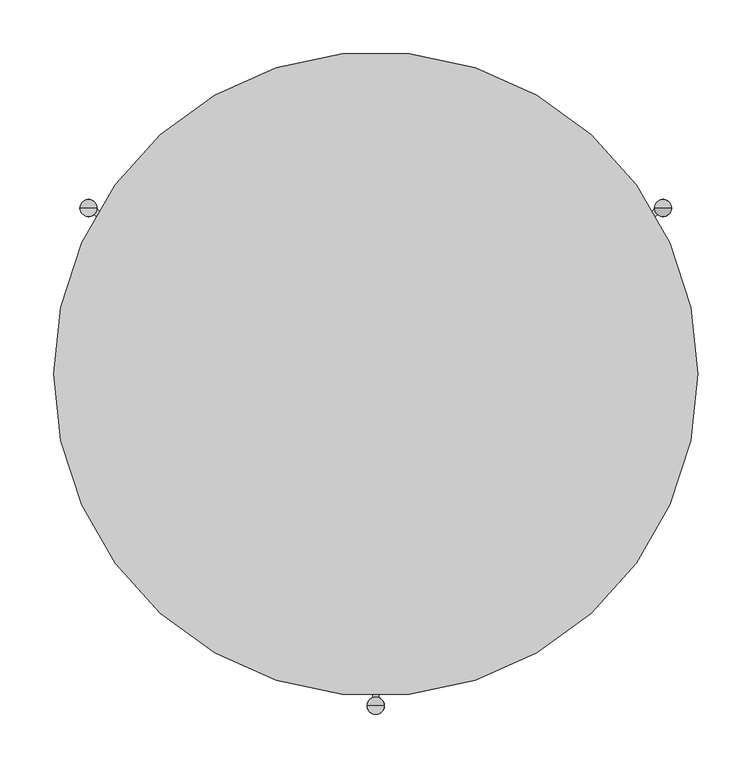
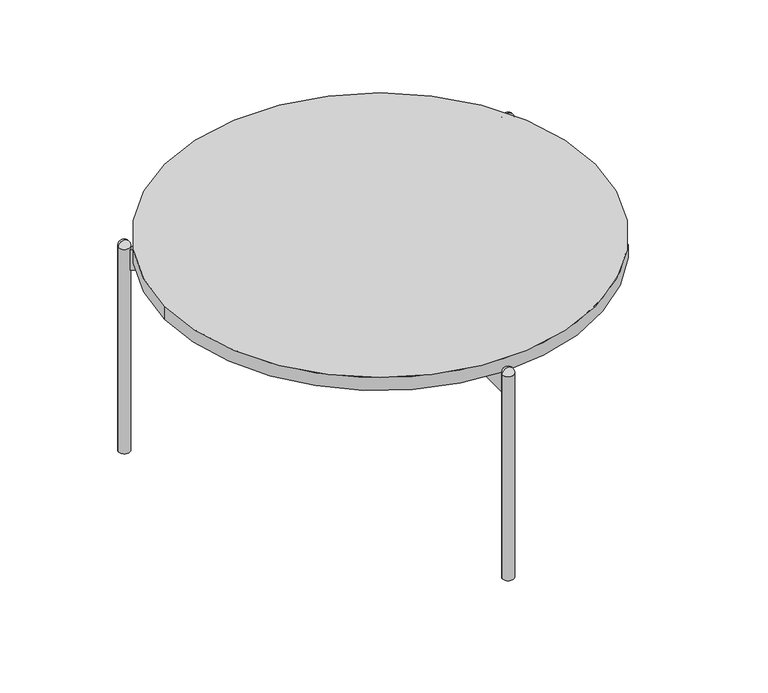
"""IFC4 building model written with IfcOpenShell, lengths in millimetres: furniture geometry, ROUND TABLE_H=31 : EI131B050060A_M."""

from ifc_helpers import new_model, si_unit, point, frame, frame_2d, origin, origin_with_axes, origin_2d, place, context, project, spatial, polyline, circle_curve, ellipse_curve, trimmed, segment, composite_curve, outline, extrude, source, transform, mapped, element, save
from ifc_brep_helpers import plane_surface, revolved_surface, advanced_brep


def furniture_c892bf0a(model_context):
    return source(origin(), model_context, "Body", "SolidModel", [
        extrude(outline(composite_curve([segment(trimmed(circle_curve(origin_2d(), 300.0), [point((-300.0, 0.0))], [point((300.0, 0.0))], False, "CARTESIAN"), True, "CONTINUOUS"), segment(trimmed(circle_curve(origin_2d(), 300.0), [point((300.0, 0.0))], [point((-300.0, 0.0))], False, "CARTESIAN"), True, "CONTINUOUS")], self_intersect=False)), frame((0.0, 0.0, 297.6939464), z_axis=(0.0, 0.0, 1.0), x_axis=(1.0, 0.0, 0.0)), (0.0, 0.0, 1.0), 19.0),
        extrude(outline(composite_curve([segment(polyline([(-19.7129166, 7.9278768), (-262.7443334, 148.2421307)]), True, "CONTINUOUS"), segment(trimmed(circle_curve(frame_2d((-267.6, 154.6)), 8.0), [point((-262.7443334, 148.2421307))], [point((-259.6895089, 153.4066303))], True, "CARTESIAN"), True, "CONTINUOUS"), segment(polyline([(-259.6895089, 153.4066303), (-16.7129166, 13.1240293), (-19.7129166, 7.9278768)]), True, "CONTINUOUS")], self_intersect=False)), frame((0.0, 0.0, 267.6939464), z_axis=(0.0, 0.0, 1.0), x_axis=(1.0, 0.0, 0.0)), (0.0, 0.0, 1.0), 30.0),
        extrude(outline(composite_curve([segment(polyline([(19.7314855, 7.9171561), (16.7314855, 13.1133085), (259.6925075, 153.38692)]), True, "CONTINUOUS"), segment(trimmed(circle_curve(frame_2d((267.6, 154.6)), 8.0), [point((259.6925075, 153.38692))], [point((262.7603454, 148.2299338))], True, "CARTESIAN"), True, "CONTINUOUS"), segment(polyline([(262.7603454, 148.2299338), (19.7314855, 7.9171561)]), True, "CONTINUOUS")], self_intersect=False)), frame((0.0, 0.0, 267.6939464), z_axis=(0.0, 0.0, 1.0), x_axis=(1.0, 0.0, 0.0)), (0.0, 0.0, 1.0), 30.0),
        extrude(outline(composite_curve([segment(polyline([(3.0, -21.0411853), (3.0, -301.5838015)]), True, "CONTINUOUS"), segment(trimmed(circle_curve(frame_2d((0.0, -309.0)), 8.0), [point((3.0, -301.5838015))], [point((-3.0, -301.5838015))], True, "CARTESIAN"), True, "CONTINUOUS"), segment(polyline([(-3.0, -301.5838015), (-3.0, -21.0411853), (3.0, -21.0411853)]), True, "CONTINUOUS")], self_intersect=False)), frame((0.0, 0.0, 267.6939464), z_axis=(0.0, 0.0, 1.0), x_axis=(1.0, 0.0, 0.0)), (0.0, 0.0, 1.0), 30.0),
        advanced_brep(
        [(267.6, 154.6, 309.1666667), (259.6, 154.6, 301.1666667), (275.6, 154.6, 301.1666667), (267.6, 154.6, 301.1666667)],
        [
            (0, 1, circle_curve(frame((267.6, 154.6, 301.1666667), z_axis=(0.0, -1.0, 0.0), x_axis=(1.0, 0.0, 0.0)), 8.0)),
            (1, 2, circle_curve(frame((267.6, 154.6, 301.1666667), z_axis=(0.0, 0.0, 1.0), x_axis=(-1.0, 0.0, 0.0)), 8.0)),
            (2, 0, circle_curve(frame((267.6, 154.6, 301.1666667), z_axis=(0.0, -1.0, 0.0), x_axis=(-1.0, 0.0, 0.0)), 8.0)),
            (2, 1, circle_curve(frame((267.6, 154.6, 301.1666667), z_axis=(0.0, 0.0, 1.0), x_axis=(-1.0, 0.0, 0.0)), 8.0)),
            (1, 3),
            (3, 2),
        ],
        [
            revolved_surface(trimmed(ellipse_curve(frame((267.6, 154.6, 301.1666667), z_axis=(0.0, 1.0, 0.0), x_axis=(1.0, 0.0, 0.0)), 8.0, 8.0), [point((259.6, 154.6, 301.1666667))], [point((267.6, 154.6, 309.1666667))], True, "CARTESIAN"), (267.6, 154.6, 2498.4), (0.0, 0.0, 1.0)),
            plane_surface(frame((267.6, 154.6, 301.1666667), z_axis=(0.0, 0.0, -1.0), x_axis=(-1.0, 0.0, 0.0))),
        ],
        [
            (0, [[1, 2, 3]]),
            (0, [[-3, 4, -1]]),
            (1, [[-2, 5, 6]]),
            (1, [[-4, -6, -5]]),
        ],
    ),
        advanced_brep(
        [(267.6, 154.6, 309.1666667), (259.6, 154.6, 301.1666667), (275.6, 154.6, 301.1666667), (267.6, 154.6, 301.1666667)],
        [
            (0, 1, circle_curve(frame((267.6, 154.6, 301.1666667), z_axis=(0.0, -1.0, 0.0), x_axis=(1.0, 0.0, 0.0)), 8.0)),
            (1, 2, circle_curve(frame((267.6, 154.6, 301.1666667), z_axis=(0.0, 0.0, 1.0), x_axis=(-1.0, 0.0, 0.0)), 8.0)),
            (2, 0, circle_curve(frame((267.6, 154.6, 301.1666667), z_axis=(0.0, -1.0, 0.0), x_axis=(-1.0, 0.0, 0.0)), 8.0)),
            (2, 1, circle_curve(frame((267.6, 154.6, 301.1666667), z_axis=(0.0, 0.0, 1.0), x_axis=(-1.0, 0.0, 0.0)), 8.0)),
            (1, 3),
            (3, 2),
        ],
        [
            revolved_surface(trimmed(ellipse_curve(frame((267.6, 154.6, 301.1666667), z_axis=(0.0, 1.0, 0.0), x_axis=(1.0, 0.0, 0.0)), 8.0, 8.0), [point((259.6, 154.6, 301.1666667))], [point((267.6, 154.6, 309.1666667))], True, "CARTESIAN"), (267.6, 154.6, 2498.4), (0.0, 0.0, 1.0)),
            plane_surface(frame((267.6, 154.6, 301.1666667), z_axis=(0.0, 0.0, -1.0), x_axis=(-1.0, 0.0, 0.0))),
        ],
        [
            (0, [[1, 2, 3]]),
            (0, [[-3, 4, -1]]),
            (1, [[-2, 5, 6]]),
            (1, [[-4, -6, -5]]),
        ],
    ),
        advanced_brep(
        [(-275.6, 154.6, 301.1666667), (-259.6, 154.6, 301.1666667), (-267.6, 154.6, 309.1666667), (-267.6, 154.6, 301.1666667)],
        [
            (0, 1, circle_curve(frame((-267.6, 154.6, 301.1666667), z_axis=(0.0, 0.0, 1.0), x_axis=(1.0, 0.0, 0.0)), 8.0)),
            (1, 2, circle_curve(frame((-267.6, 154.6, 301.1666667), z_axis=(0.0, -1.0, 0.0), x_axis=(-1.0, 0.0, 0.0)), 8.0)),
            (2, 0, circle_curve(frame((-267.6, 154.6, 301.1666667), z_axis=(0.0, -1.0, 0.0), x_axis=(1.0, 0.0, 0.0)), 8.0)),
            (1, 0, circle_curve(frame((-267.6, 154.6, 301.1666667), z_axis=(0.0, 0.0, 1.0), x_axis=(1.0, 0.0, 0.0)), 8.0)),
            (3, 1),
            (0, 3),
        ],
        [
            revolved_surface(trimmed(ellipse_curve(frame((-267.6, 154.6, 301.1666667), z_axis=(0.0, 1.0, 0.0), x_axis=(-1.0, 0.0, 0.0)), 8.0, 8.0), [point((-267.6, 154.6, 309.1666667))], [point((-259.6, 154.6, 301.1666667))], True, "CARTESIAN"), (-267.6, 154.6, 2498.4), (0.0, 0.0, -1.0)),
            plane_surface(frame((-267.6, 154.6, 301.1666667), z_axis=(0.0, 0.0, -1.0), x_axis=(1.0, 0.0, 0.0))),
        ],
        [
            (0, [[1, 2, 3]]),
            (0, [[4, -3, -2]]),
            (1, [[5, -1, 6]]),
            (1, [[-6, -4, -5]]),
        ],
    ),
        advanced_brep(
        [(-8.025371, -309.0, 301.1666667), (7.974629, -309.0, 301.1666667), (-0.025371, -309.0, 309.1666667), (-0.025371, -309.0, 301.1666667)],
        [
            (0, 1, circle_curve(frame((-0.025371, -309.0, 301.1666667), z_axis=(0.0, 0.0, 1.0), x_axis=(1.0, 0.0, 0.0)), 8.0)),
            (1, 2, circle_curve(frame((-0.025371, -309.0, 301.1666667), z_axis=(0.0, -1.0, 0.0), x_axis=(-1.0, 0.0, 0.0)), 8.0)),
            (2, 0, circle_curve(frame((-0.025371, -309.0, 301.1666667), z_axis=(0.0, -1.0, 0.0), x_axis=(1.0, 0.0, 0.0)), 8.0)),
            (1, 0, circle_curve(frame((-0.025371, -309.0, 301.1666667), z_axis=(0.0, 0.0, 1.0), x_axis=(1.0, 0.0, 0.0)), 8.0)),
            (3, 1),
            (0, 3),
        ],
        [
            revolved_surface(trimmed(ellipse_curve(frame((-0.025371, -309.0, 301.1666667), z_axis=(0.0, 1.0, 0.0), x_axis=(-1.0, 0.0, 0.0)), 8.0, 8.0), [point((-0.025371, -309.0, 309.1666667))], [point((7.974629, -309.0, 301.1666667))], True, "CARTESIAN"), (-0.025371, -309.0, 2498.4), (0.0, 0.0, -1.0)),
            plane_surface(frame((-0.025371, -309.0, 301.1666667), z_axis=(0.0, 0.0, -1.0), x_axis=(1.0, 0.0, 0.0))),
        ],
        [
            (0, [[1, 2, 3]]),
            (0, [[4, -3, -2]]),
            (1, [[5, -1, 6]]),
            (1, [[-6, -4, -5]]),
        ],
    ),
        extrude(outline(composite_curve([segment(trimmed(circle_curve(origin_2d(), 23.0), [point((-23.0, 0.0))], [point((23.0, 0.0))], False, "CARTESIAN"), True, "CONTINUOUS"), segment(trimmed(circle_curve(origin_2d(), 23.0), [point((23.0, 0.0))], [point((-23.0, 0.0))], False, "CARTESIAN"), True, "CONTINUOUS")], self_intersect=False)), frame((0.0, 0.0, 267.6939464), z_axis=(0.0, 0.0, 1.0), x_axis=(1.0, 0.0, 0.0)), (0.0, 0.0, 1.0), 30.0),
        extrude(outline(composite_curve([segment(trimmed(circle_curve(frame_2d((-267.6, 154.6)), 8.0), [point((-275.6, 154.6))], [point((-259.6, 154.6))], False, "CARTESIAN"), True, "CONTINUOUS"), segment(trimmed(circle_curve(frame_2d((-267.6, 154.6)), 8.0), [point((-259.6, 154.6))], [point((-275.6, 154.6))], False, "CARTESIAN"), True, "CONTINUOUS")], self_intersect=False)), origin_with_axes(), (0.0, 0.0, 1.0), 301.1666667),
        extrude(outline(composite_curve([segment(trimmed(circle_curve(frame_2d((267.6, 154.6)), 8.0), [point((259.6, 154.6))], [point((275.6, 154.6))], False, "CARTESIAN"), True, "CONTINUOUS"), segment(trimmed(circle_curve(frame_2d((267.6, 154.6)), 8.0), [point((275.6, 154.6))], [point((259.6, 154.6))], False, "CARTESIAN"), True, "CONTINUOUS")], self_intersect=False)), origin_with_axes(), (0.0, 0.0, 1.0), 301.1666667),
        extrude(outline(composite_curve([segment(trimmed(circle_curve(frame_2d((0.0, -309.0)), 8.0), [point((-8.0, -309.0))], [point((8.0, -309.0))], False, "CARTESIAN"), True, "CONTINUOUS"), segment(trimmed(circle_curve(frame_2d((0.0, -309.0)), 8.0), [point((8.0, -309.0))], [point((-8.0, -309.0))], False, "CARTESIAN"), True, "CONTINUOUS")], self_intersect=False)), origin_with_axes(), (0.0, 0.0, 1.0), 301.1666667),
    ])


if __name__ == "__main__":
    model = new_model("IFC4")
    model_context = context("Model", 3, world=origin())
    ifc_project = project(units=[si_unit("LENGTHUNIT", "METRE", prefix="MILLI")], contexts=[model_context])
    site = spatial("IfcSite", under=ifc_project)
    building = spatial("IfcBuilding", under=site)
    placement = place(None, origin())
    furniture_shape = furniture_c892bf0a(model_context)
    element("IfcFurniture", 1, ObjectType="ROUND TABLE_H=31 : EI131B050060A_M", at=placement, inside=building, context=model_context, shape_type="MappedRepresentation", body=[
        mapped(furniture_shape, transform((0.0, 0.0, 0.0), x_axis=(1.0, 0.0, 0.0), y_axis=(0.0, 1.0, 0.0), z_axis=(0.0, 0.0, 1.0))),
    ])
    save(model, "model.ifc")
